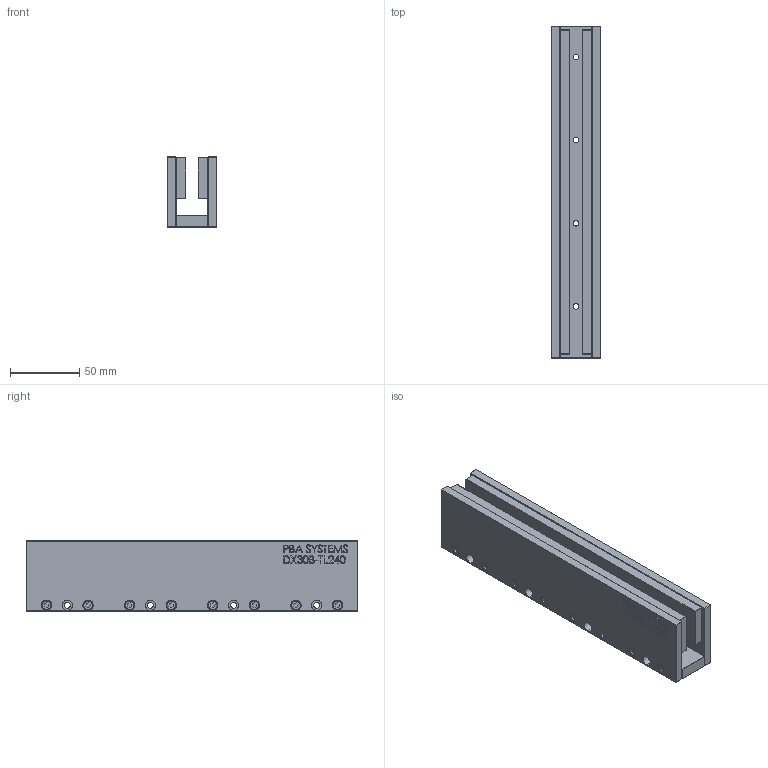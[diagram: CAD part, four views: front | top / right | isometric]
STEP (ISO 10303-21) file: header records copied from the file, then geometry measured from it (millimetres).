
FILE_DESCRIPTION (( 'STEP AP214' ), '1' );
FILE_NAME ('DX30B-TL240.STEP', '2016-05-11T09:05:45', ( '' ), ( '' ), 'SwSTEP 2.0', 'SolidWorks 2015', '' );
FILE_SCHEMA (( 'AUTOMOTIVE_DESIGN' ));
Length unit declared in the file: millimetre
Products named in the file (5): DX30B-TL240-001_TL240; M4X12 DIN7984 STAINLESS STEEL; DX30B-TL240-002_TL240; DX30B-0000-001_COUSTOMER_TL240; DX30B-TL240
Assembly tree (21 placements, depth 2):
  DX30B-TL240
    DX30B-0000-001_COUSTOMER_TL240  x2
    DX30B-TL240-002_TL240  x2
    M4X12 DIN7984 STAINLESS STEEL  x16
    DX30B-TL240-001_TL240
Bounding box: 35.7 x 239.5 x 50.8 mm (x, y, z)
Volume: 294299.4 mm3; surface area: 116139.8 mm2
Topology: 21 solids, 21 shells, 1098 faces, 2742 edges, 1780 vertices
Faces by surface type: plane 590, bspline 228, cylinder 200, cone 32, torus 32, sphere 16
Entity records: 20191 total; most frequent: CARTESIAN_POINT 9341, ORIENTED_EDGE 2338, DIRECTION 1839, EDGE_CURVE 1169, VERTEX_POINT 770, VECTOR 759, LINE 759, EDGE_LOOP 545
